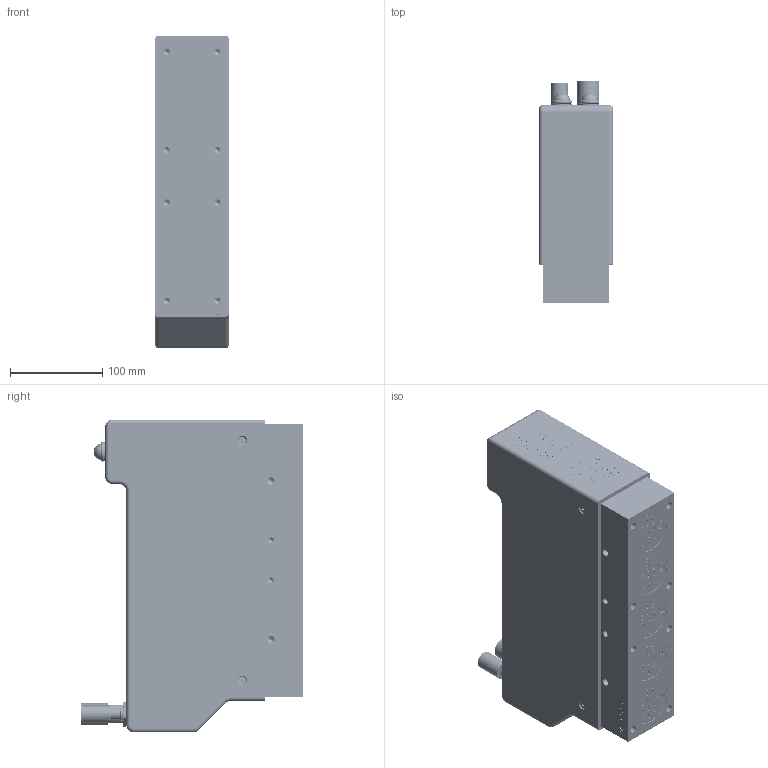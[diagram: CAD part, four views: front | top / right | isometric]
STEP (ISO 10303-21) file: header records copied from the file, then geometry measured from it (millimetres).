
FILE_DESCRIPTION (( 'STEP AP214' ), '1' );
FILE_NAME ('81401320_CFM.STEP', '2024-07-31T19:58:14', ( '' ), ( '' ), 'SwSTEP 2.0', 'SolidWorks 2022', '' );
FILE_SCHEMA (( 'AUTOMOTIVE_DESIGN' ));
Length unit declared in the file: millimetre
Products named in the file (1): 81401320_CFM
Bounding box: 80 x 241.5 x 339.5 mm (x, y, z)
Volume: 4932847.5 mm3; surface area: 268289.6 mm2
Topology: 26 solids, 38 shells, 7656 faces, 20503 edges, 13524 vertices
Faces by surface type: plane 3813, bspline 2745, cylinder 757, cone 245, torus 72, sphere 24
Entity records: 451388 total; most frequent: CARTESIAN_POINT 196981, ORIENTED_EDGE 40822, DIRECTION 24965, EDGE_CURVE 20411, VERTEX_POINT 13515, VECTOR 12653, LINE 12653, EDGE_LOOP 8394
